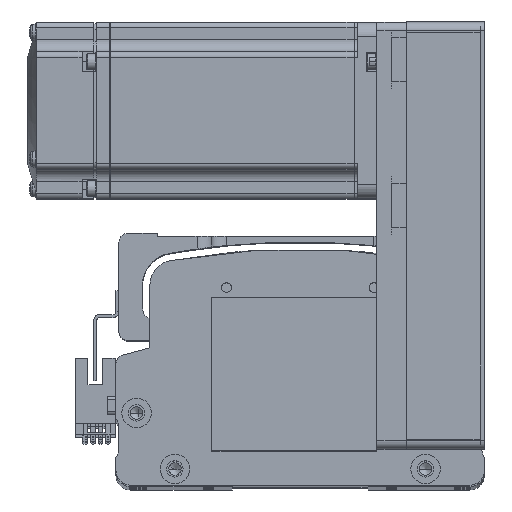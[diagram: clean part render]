
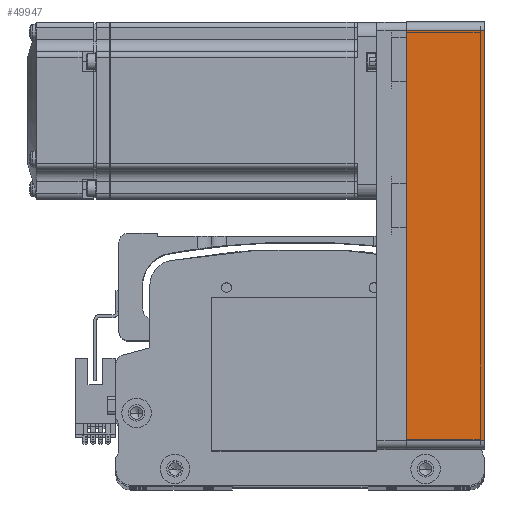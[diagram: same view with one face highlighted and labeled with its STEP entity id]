
A CAD part, top view. The second image highlights one B-rep face of the part: STEP entity #49947.
In plain terms, the highlighted planar face has unit normal (0, 0, 1) as drawn and (0, 1, 0) by its records, which use the part's own axes.
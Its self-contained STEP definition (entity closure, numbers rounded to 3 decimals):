
#935 = VECTOR ( 'NONE', #47559, 1000. ) ;
#1376 = LINE ( 'NONE', #33977, #34981 ) ;
#11273 = CARTESIAN_POINT ( 'NONE',  ( 69.5, 30., 0. ) ) ;
#11410 = VECTOR ( 'NONE', #46863, 1000. ) ;
#13208 = AXIS2_PLACEMENT_3D ( 'NONE', #25120, #69231, #31440 ) ;
#14477 = ORIENTED_EDGE ( 'NONE', *, *, #56352, .T. ) ;
#17739 = LINE ( 'NONE', #72713, #935 ) ;
#21115 = DIRECTION ( 'NONE',  ( -1., 0., 0. ) ) ;
#24593 = EDGE_CURVE ( 'NONE', #54832, #48757, #17739, .T. ) ;
#25120 = CARTESIAN_POINT ( 'NONE',  ( 72.5, 30., 26.5 ) ) ;
#28551 = EDGE_LOOP ( 'NONE', ( #69512, #14477, #41943, #58990 ) ) ;
#31440 = DIRECTION ( 'NONE',  ( 1., 0., 0. ) ) ;
#32645 = VECTOR ( 'NONE', #21115, 1000. ) ;
#33403 = EDGE_CURVE ( 'NONE', #48757, #49001, #46873, .T. ) ;
#33977 = CARTESIAN_POINT ( 'NONE',  ( -69.5, 30., 26.5 ) ) ;
#34981 = VECTOR ( 'NONE', #78158, 1000. ) ;
#39309 = CARTESIAN_POINT ( 'NONE',  ( -69.5, 30., 0. ) ) ;
#41943 = ORIENTED_EDGE ( 'NONE', *, *, #79377, .F. ) ;
#42430 = CARTESIAN_POINT ( 'NONE',  ( 69.5, 30., 26.5 ) ) ;
#46863 = DIRECTION ( 'NONE',  ( -1., 0., 0. ) ) ;
#46873 = LINE ( 'NONE', #78686, #11410 ) ;
#47559 = DIRECTION ( 'NONE',  ( 0., 0., -1. ) ) ;
#48757 = VERTEX_POINT ( 'NONE', #11273 ) ;
#49001 = VERTEX_POINT ( 'NONE', #39309 ) ;
#49947 = ADVANCED_FACE ( 'NONE', ( #76914 ), #81437, .F. ) ;
#54832 = VERTEX_POINT ( 'NONE', #42430 ) ;
#56352 = EDGE_CURVE ( 'NONE', #49001, #58142, #1376, .T. ) ;
#58142 = VERTEX_POINT ( 'NONE', #78457 ) ;
#58990 = ORIENTED_EDGE ( 'NONE', *, *, #24593, .T. ) ;
#65274 = CARTESIAN_POINT ( 'NONE',  ( 72.5, 30., 26.5 ) ) ;
#66212 = LINE ( 'NONE', #65274, #32645 ) ;
#69231 = DIRECTION ( 'NONE',  ( 0., -1., 0. ) ) ;
#69512 = ORIENTED_EDGE ( 'NONE', *, *, #33403, .T. ) ;
#72713 = CARTESIAN_POINT ( 'NONE',  ( 69.5, 30., 26.5 ) ) ;
#76914 = FACE_OUTER_BOUND ( 'NONE', #28551, .T. ) ;
#78158 = DIRECTION ( 'NONE',  ( 0., 0., 1. ) ) ;
#78457 = CARTESIAN_POINT ( 'NONE',  ( -69.5, 30., 26.5 ) ) ;
#78686 = CARTESIAN_POINT ( 'NONE',  ( 72.5, 30., 0. ) ) ;
#79377 = EDGE_CURVE ( 'NONE', #54832, #58142, #66212, .T. ) ;
#81437 = PLANE ( 'NONE',  #13208 ) ;
